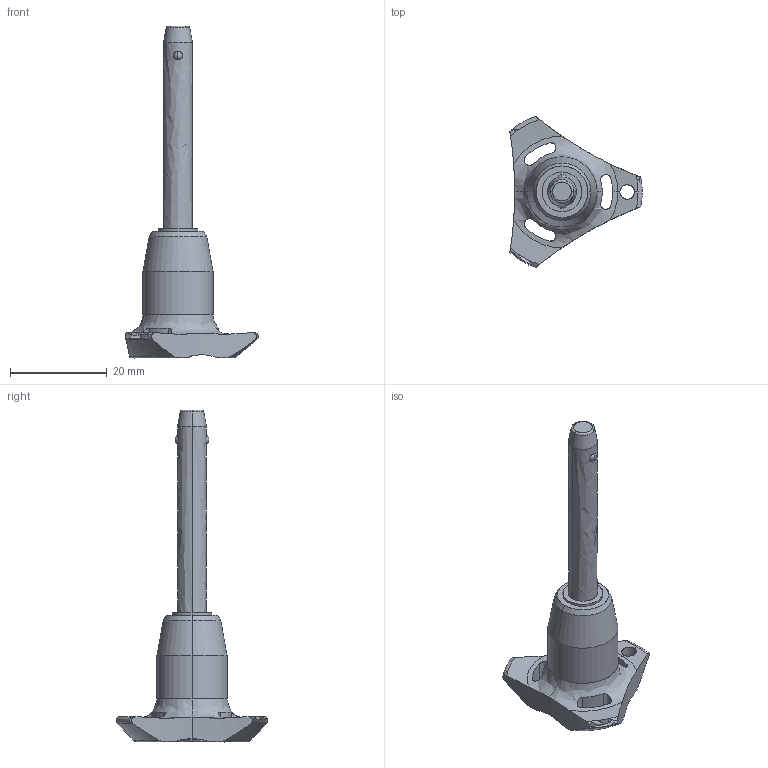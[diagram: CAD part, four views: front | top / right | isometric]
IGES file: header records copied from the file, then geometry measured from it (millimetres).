
Start section: SolidWorks IGES file using analytic representation for surfaces
Global section: file name: C:\Users\ianosborn\Desktop\QR1724_v2\QR1724_v2_20251112_IGES\QR1724.M06-035-S.igs; native system: SolidWorks 2019; preprocessor: SolidWorks 2019; author: IanOsborn; date: 251112.124621; units: millimetre
Bounding box: 27.4 x 31.31 x 68.7 mm (x, y, z)
Surface area: 3212.6 mm2 (no closed solid volume)
Topology: 0 solids, 0 shells, 66 faces, 1251 edges, 1232 vertices
Faces by surface type: revolution 50, bspline 16
